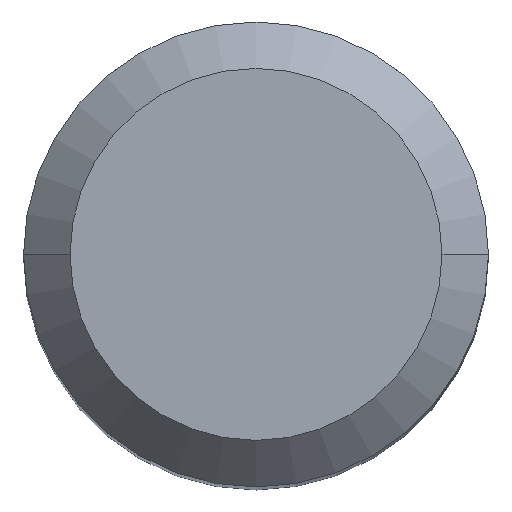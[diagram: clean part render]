
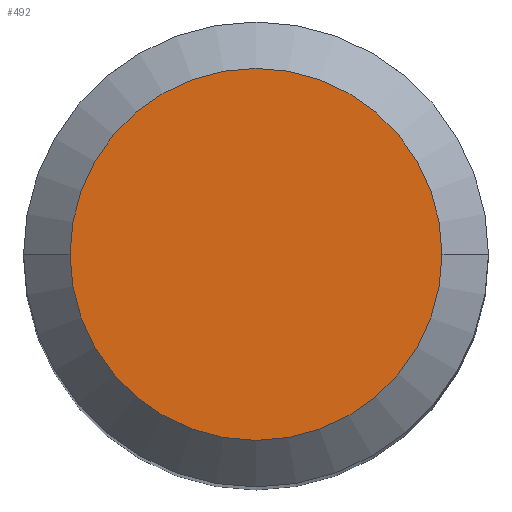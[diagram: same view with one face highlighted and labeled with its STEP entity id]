
A CAD part, top view. The second image highlights one B-rep face of the part: STEP entity #492.
In plain terms, the highlighted planar face has unit normal (0, 0, 1).
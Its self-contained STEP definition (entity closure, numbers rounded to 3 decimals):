
#47 = CIRCLE ( 'NONE', #333, 5.6 ) ;
#56 = DIRECTION ( 'NONE',  ( 0., 0., 1. ) ) ;
#65 = FACE_OUTER_BOUND ( 'NONE', #446, .T. ) ;
#71 = CIRCLE ( 'NONE', #496, 5.6 ) ;
#95 = DIRECTION ( 'NONE',  ( 0., 0., -1. ) ) ;
#132 = VERTEX_POINT ( 'NONE', #271 ) ;
#146 = DIRECTION ( 'NONE',  ( -1., 0., 0. ) ) ;
#147 = DIRECTION ( 'NONE',  ( 0., 0., -1. ) ) ;
#157 = PLANE ( 'NONE',  #322 ) ;
#203 = CARTESIAN_POINT ( 'NONE',  ( 0., 5.6, 0. ) ) ;
#214 = EDGE_CURVE ( 'NONE', #253, #132, #47, .T. ) ;
#226 = DIRECTION ( 'NONE',  ( -1., 0., 0. ) ) ;
#241 = EDGE_CURVE ( 'NONE', #132, #253, #71, .T. ) ;
#253 = VERTEX_POINT ( 'NONE', #323 ) ;
#271 = CARTESIAN_POINT ( 'NONE',  ( -5.6, 0., 0. ) ) ;
#322 = AXIS2_PLACEMENT_3D ( 'NONE', #203, #56, #573 ) ;
#323 = CARTESIAN_POINT ( 'NONE',  ( 5.6, 0., 0. ) ) ;
#333 = AXIS2_PLACEMENT_3D ( 'NONE', #560, #95, #226 ) ;
#392 = ORIENTED_EDGE ( 'NONE', *, *, #214, .F. ) ;
#437 = ORIENTED_EDGE ( 'NONE', *, *, #241, .F. ) ;
#446 = EDGE_LOOP ( 'NONE', ( #437, #392 ) ) ;
#492 = ADVANCED_FACE ( 'NONE', ( #65 ), #157, .T. ) ;
#496 = AXIS2_PLACEMENT_3D ( 'NONE', #554, #147, #146 ) ;
#554 = CARTESIAN_POINT ( 'NONE',  ( 0., 0., 0. ) ) ;
#560 = CARTESIAN_POINT ( 'NONE',  ( 0., 0., 0. ) ) ;
#573 = DIRECTION ( 'NONE',  ( 1., 0., 0. ) ) ;
